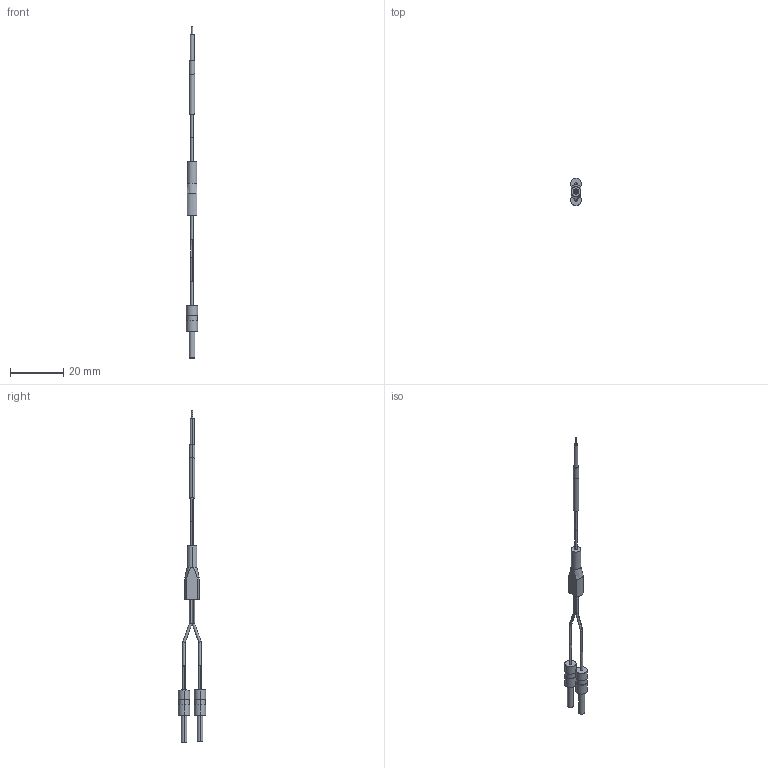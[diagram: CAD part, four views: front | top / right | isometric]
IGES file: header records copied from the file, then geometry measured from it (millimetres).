
Start section: SolidWorks IGES FILE using analytic representation for surfaces
Global section: file name: C:\Documents and Settings\yk0651\デスクトップ\3D_catalog_050904\0_IGES\FD-E12.IGS; native system: SolidWorks 2004 by SolidWorks Corporation; preprocessor: Version 5.3; author: yk0651; date: 050904.181914; units: millimetre
Bounding box: 4.33 x 10.33 x 124.5 mm (x, y, z)
Volume: 772.4 mm3; surface area: 1195.7 mm2
Topology: 4 solids, 4 shells, 78 faces, 154 edges, 100 vertices
Faces by surface type: revolution 52, plane 26
